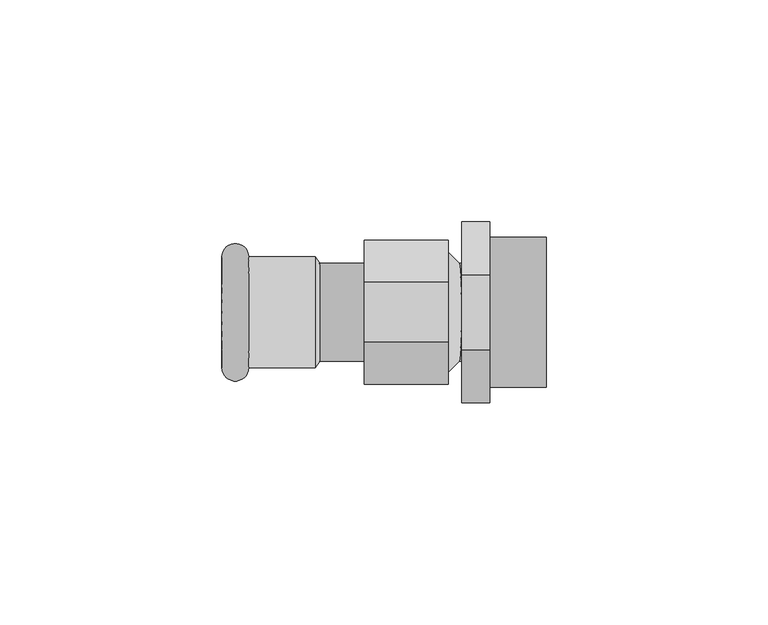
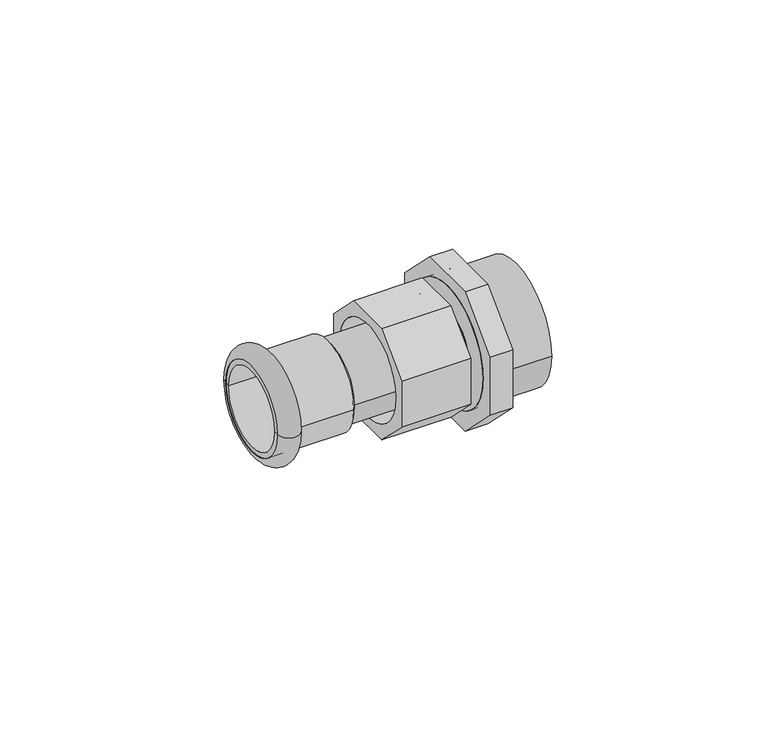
"""IFC4 building model written with IfcOpenShell, lengths in millimetres: pipe fitting geometry."""

from ifc_helpers import new_model, si_unit, point, frame, origin, origin_2d, place, context, project, spatial, polyline, circle_curve, ellipse_curve, trimmed, segment, composite_curve, outline, extrude, source, transform, mapped, element, save
from ifc_brep_helpers import plane_surface, cylinder_surface, revolved_surface, advanced_brep


def pipe_fitting_bc17f14c(model_context):
    return source(origin(), model_context, "Body", "SolidModel", [
        advanced_brep(
        [(-6.3333333, -16.2355862, 6.725), (-6.3333333, -6.725, 16.2355862), (-6.3333333, 6.725, 16.2355862), (-6.3333333, 16.2355862, 6.725), (-6.3333333, 16.2355862, -6.725), (-6.3333333, 6.725, -16.2355862), (-6.3333333, -6.725, -16.2355862), (-6.3333333, -16.2355862, -6.725), (-6.3333333, 13.45, 0.0), (-6.3333333, -13.45, 0.0), (12.6666667, -16.2355862, 6.725), (12.6666667, -16.2355862, -6.725), (12.6666667, -6.725, -16.2355862), (12.6666667, 6.725, -16.2355862), (12.6666667, 16.2355862, -6.725), (12.6666667, 16.2355862, 6.725), (12.6666667, 6.725, 16.2355862), (12.6666667, -6.725, 16.2355862), (12.6666667, 13.4788231, 0.0), (12.6666667, -13.4788231, 0.0), (12.6666667, 13.45, 0.0), (12.6666667, -13.45, 0.0), (12.6666667, 10.4788231, 0.0), (12.6666667, -10.4788231, 0.0), (15.6666667, 10.4788231, 0.0), (15.6666667, -10.4788231, 0.0)],
        [
            (0, 1),
            (1, 2),
            (2, 3),
            (3, 4),
            (4, 5),
            (5, 6),
            (6, 7),
            (7, 0),
            (8, 9, circle_curve(frame((-6.3333333, 0.0, 0.0), z_axis=(1.0, 0.0, 0.0), x_axis=(0.0, -1.0, 0.0)), 13.45)),
            (9, 8, circle_curve(frame((-6.3333333, 0.0, 0.0), z_axis=(1.0, 0.0, 0.0), x_axis=(0.0, -1.0, 0.0)), 13.45)),
            (10, 11),
            (11, 12),
            (12, 13),
            (13, 14),
            (14, 15),
            (15, 16),
            (16, 17),
            (17, 10),
            (18, 19, circle_curve(frame((12.6666667, 0.0, 0.0), z_axis=(-1.0, 0.0, 0.0), x_axis=(0.0, -1.0, 0.0)), 13.4788231)),
            (19, 18, circle_curve(frame((12.6666667, 0.0, 0.0), z_axis=(-1.0, 0.0, 0.0), x_axis=(0.0, 1.0, 0.0)), 13.4788231)),
            (8, 20),
            (20, 21, circle_curve(frame((12.6666667, 0.0, 0.0), z_axis=(1.0, 0.0, 0.0), x_axis=(0.0, -1.0, 0.0)), 13.45)),
            (21, 9),
            (21, 20, circle_curve(frame((12.6666667, 0.0, 0.0), z_axis=(1.0, 0.0, 0.0), x_axis=(0.0, -1.0, 0.0)), 13.45)),
            (0, 10),
            (17, 1),
            (16, 2),
            (15, 3),
            (14, 4),
            (13, 5),
            (12, 6),
            (11, 7),
            (22, 23, circle_curve(frame((12.6666667, 0.0, 0.0), z_axis=(1.0, 0.0, 0.0), x_axis=(0.0, 1.0, 0.0)), 10.4788231)),
            (23, 22, circle_curve(frame((12.6666667, 0.0, 0.0), z_axis=(1.0, 0.0, 0.0), x_axis=(0.0, -1.0, 0.0)), 10.4788231)),
            (24, 25, circle_curve(frame((15.6666667, 0.0, 0.0), z_axis=(-1.0, 0.0, 0.0), x_axis=(0.0, -1.0, 0.0)), 10.4788231)),
            (25, 19),
            (18, 24),
            (23, 25),
            (24, 22),
            (25, 24, circle_curve(frame((15.6666667, 0.0, 0.0), z_axis=(-1.0, 0.0, 0.0), x_axis=(0.0, 1.0, 0.0)), 10.4788231)),
        ],
        [
            plane_surface(frame((-6.3333333, -13.45, 0.0), z_axis=(-1.0, 0.0, 0.0), x_axis=(0.0, 0.0, -1.0))),
            plane_surface(frame((12.6666667, -13.45, 0.0), z_axis=(1.0, 0.0, 0.0), x_axis=(0.0, 0.0, 1.0))),
            revolved_surface(polyline([(12.6666667, -13.45, 0.0), (-6.3333333, -13.45, 0.0)]), (12.6666667, 0.0, 0.0), (1.0, 0.0, 0.0)),
            plane_surface(frame((-6.3333333, -16.2355862, 6.725), z_axis=(0.0, -0.7071067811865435, 0.7071067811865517), x_axis=(1.0, 0.0, 0.0))),
            plane_surface(frame((-6.3333333, -6.725, 16.2355862), z_axis=(0.0, 0.0, 1.0), x_axis=(1.0, 0.0, 0.0))),
            plane_surface(frame((-6.3333333, 6.725, 16.2355862), z_axis=(0.0, 0.7071067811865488, 0.7071067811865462), x_axis=(1.0, 0.0, 0.0))),
            plane_surface(frame((-6.3333333, 16.2355862, 6.725), z_axis=(0.0, 1.0, 0.0), x_axis=(1.0, 0.0, 0.0))),
            plane_surface(frame((-6.3333333, 16.2355862, -6.725), z_axis=(0.0, 0.7071067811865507, -0.7071067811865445), x_axis=(1.0, 0.0, 0.0))),
            plane_surface(frame((-6.3333333, 6.725, -16.2355862), z_axis=(0.0, 0.0, -1.0), x_axis=(1.0, 0.0, 0.0))),
            plane_surface(frame((-6.3333333, -6.725, -16.2355862), z_axis=(0.0, -0.7071067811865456, -0.7071067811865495), x_axis=(1.0, 0.0, 0.0))),
            plane_surface(frame((-6.3333333, -16.2355862, -6.725), z_axis=(0.0, -1.0, 0.0), x_axis=(1.0, 0.0, 0.0))),
            plane_surface(frame((12.6666667, 0.0, 0.0), z_axis=(-1.0, 0.0, 0.0), x_axis=(0.0, 1.0, 0.0))),
            revolved_surface(polyline([(12.6666667, -13.4788231, 0.0), (15.6666667, -10.4788231, 0.0)]), (12.6666667, 0.0, 0.0), (1.0, 0.0, 0.0)),
            revolved_surface(polyline([(15.6666667, -10.4788231, 0.0), (12.6666667, -10.4788231, 0.0)]), (12.6666667, 0.0, 0.0), (1.0, 0.0, 0.0)),
            revolved_surface(polyline([(12.6666667, 13.4788231, 0.0), (15.6666667, 10.4788231, 0.0)]), (12.6666667, 0.0, 0.0), (1.0, 0.0, 0.0)),
            revolved_surface(polyline([(15.6666667, 10.4788231, 0.0), (12.6666667, 10.4788231, 0.0)]), (12.6666667, 0.0, 0.0), (1.0, 0.0, 0.0)),
        ],
        [
            (0, [[1, 2, 3, 4, 5, 6, 7, 8], [9, 10]]),
            (1, [[11, 12, 13, 14, 15, 16, 17, 18], [19, 20]]),
            (2, [[-9, 21, 22, 23]]),
            (2, [[-10, -23, 24, -21]]),
            (3, [[-1, 25, -18, 26]]),
            (4, [[-2, -26, -17, 27]]),
            (5, [[-3, -27, -16, 28]]),
            (6, [[-4, -28, -15, 29]]),
            (7, [[-5, -29, -14, 30]]),
            (8, [[-6, -30, -13, 31]]),
            (9, [[-7, -31, -12, 32]]),
            (10, [[-8, -32, -11, -25]]),
            (11, [[-22, -24], [33, 34]]),
            (12, [[35, 36, -19, 37]]),
            (13, [[-34, 38, -35, 39]]),
            (14, [[-36, 40, -37, -20]]),
            (15, [[-33, -39, -40, -38]]),
        ],
    ),
        extrude(outline(composite_curve([segment(trimmed(circle_curve(origin_2d(), 16.85), [point((-16.85, 0.0))], [point((16.85, 0.0))], False, "CARTESIAN"), True, "CONTINUOUS"), segment(trimmed(circle_curve(origin_2d(), 16.85), [point((16.85, 0.0))], [point((-16.85, 0.0))], False, "CARTESIAN"), True, "CONTINUOUS")], self_intersect=False)), frame((15.6666667, 0.0, 0.0), z_axis=(1.0, 0.0, 0.0), x_axis=(0.0, 1.0, 0.0)), (0.0, 0.0, 1.0), 19.0),
        extrude(outline(polyline([(20.3397493, 8.425), (20.3397493, -8.425), (8.425, -20.3397493), (-8.425, -20.3397493), (-20.3397493, -8.425), (-20.3397493, 8.425), (-8.425, 20.3397493), (8.425, 20.3397493), (20.3397493, 8.425)]), holes=[composite_curve([segment(trimmed(circle_curve(origin_2d(), 16.85), [point((-16.85, 0.0))], [point((16.85, 0.0))], True, "CARTESIAN"), True, "CONTINUOUS"), segment(trimmed(circle_curve(origin_2d(), 16.85), [point((16.85, 0.0))], [point((-16.85, 0.0))], True, "CARTESIAN"), True, "CONTINUOUS")], self_intersect=False)]), frame((15.6666667, 0.0, 0.0), z_axis=(1.0, 0.0, 0.0), x_axis=(0.0, 1.0, 0.0)), (0.0, 0.0, 1.0), 6.3333333),
        advanced_brep(
        [(-38.3333333, 12.5, 0.0), (-38.3333333, -12.5, 0.0), (-32.3320406, -12.5, 0.0), (-32.3320406, 12.5, 0.0)],
        [
            (0, 1, circle_curve(frame((-38.3333333, 0.0, 0.0), z_axis=(-1.0, 0.0, 0.0), x_axis=(0.0, -1.0, 0.0)), 12.5)),
            (1, 2),
            (2, 3, circle_curve(frame((-32.3320406, 0.0, 0.0), z_axis=(1.0, 0.0, 0.0), x_axis=(0.0, -1.0, 0.0)), 12.5)),
            (3, 0),
            (1, 0, circle_curve(frame((-38.3333333, 0.0, 0.0), z_axis=(-1.0, 0.0, 0.0), x_axis=(0.0, -1.0, 0.0)), 12.5)),
            (3, 2, circle_curve(frame((-32.3320406, 0.0, 0.0), z_axis=(1.0, 0.0, 0.0), x_axis=(0.0, -1.0, 0.0)), 12.5)),
            (2, 1, circle_curve(frame((-35.332687, -12.5, 0.0), z_axis=(0.0, 0.0, -1.0), x_axis=(-1.0, 0.0, 0.0)), 3.0006464)),
            (0, 3, circle_curve(frame((-35.332687, 12.5, 0.0), z_axis=(0.0, 0.0, -1.0), x_axis=(-1.0, 0.0, 0.0)), 3.0006464)),
        ],
        [
            revolved_surface(polyline([(-32.3320406, -12.5, 0.0), (-38.3333333, -12.5, 0.0)]), (-17.3333333, 0.0, 0.0), (1.0, 0.0, 0.0)),
            revolved_surface(trimmed(ellipse_curve(frame((-35.332687, -12.5, 0.0), z_axis=(0.0, 0.0, 1.0), x_axis=(-1.0, 0.0, 0.0)), 3.0006464, 3.0006464), [point((-38.3333333, -12.5, 0.0))], [point((-32.3320406, -12.5, 0.0))], True, "CARTESIAN"), (-17.3333333, 0.0, 0.0), (1.0, 0.0, 0.0)),
        ],
        [
            (0, [[1, 2, 3, 4]]),
            (0, [[5, -4, 6, -2]]),
            (1, [[-3, 7, -1, 8]]),
            (1, [[-6, -8, -5, -7]]),
        ],
    ),
        advanced_brep(
        [(-38.3333333, 11.0, 0.0), (-38.3333333, -11.0, 0.0), (-16.3333333, -11.0, 0.0), (-16.3333333, 11.0, 0.0), (-38.3333333, 12.5, 0.0), (-38.3333333, -12.5, 0.0), (-17.3333333, 12.5, 0.0), (-17.3333333, -12.5, 0.0)],
        [
            (0, 1, circle_curve(frame((-38.3333333, 0.0, 0.0), z_axis=(-1.0, 0.0, 0.0), x_axis=(0.0, -1.0, 0.0)), 11.0)),
            (1, 2),
            (2, 3, circle_curve(frame((-16.3333333, 0.0, 0.0), z_axis=(1.0, 0.0, 0.0), x_axis=(0.0, -1.0, 0.0)), 11.0)),
            (3, 0),
            (1, 0, circle_curve(frame((-38.3333333, 0.0, 0.0), z_axis=(-1.0, 0.0, 0.0), x_axis=(0.0, -1.0, 0.0)), 11.0)),
            (3, 2, circle_curve(frame((-16.3333333, 0.0, 0.0), z_axis=(1.0, 0.0, 0.0), x_axis=(0.0, -1.0, 0.0)), 11.0)),
            (4, 5, circle_curve(frame((-38.3333333, 0.0, 0.0), z_axis=(-1.0, 0.0, 0.0), x_axis=(0.0, -1.0, 0.0)), 12.5)),
            (5, 1),
            (0, 4),
            (5, 4, circle_curve(frame((-38.3333333, 0.0, 0.0), z_axis=(-1.0, 0.0, 0.0), x_axis=(0.0, -1.0, 0.0)), 12.5)),
            (6, 7, circle_curve(frame((-17.3333333, 0.0, 0.0), z_axis=(-1.0, 0.0, 0.0), x_axis=(0.0, -1.0, 0.0)), 12.5)),
            (7, 5),
            (4, 6),
            (7, 6, circle_curve(frame((-17.3333333, 0.0, 0.0), z_axis=(-1.0, 0.0, 0.0), x_axis=(0.0, -1.0, 0.0)), 12.5)),
            (2, 7),
            (6, 3),
        ],
        [
            revolved_surface(polyline([(-16.3333333, -11.0, 0.0), (-38.3333333, -11.0, 0.0)]), (-17.3333333, 0.0, 0.0), (1.0, 0.0, 0.0)),
            plane_surface(frame((-38.3333333, 0.0, 0.0), z_axis=(-1.0, 0.0, 0.0), x_axis=(0.0, -1.0, 0.0))),
            cylinder_surface(frame((-17.3333333, 0.0, 0.0), z_axis=(1.0, 0.0, 0.0), x_axis=(0.0, -1.0, 0.0)), 12.5),
            revolved_surface(polyline([(-17.3333333, -12.5, 0.0), (-16.3333333, -11.0, 0.0)]), (-17.3333333, 0.0, 0.0), (1.0, 0.0, 0.0)),
        ],
        [
            (0, [[1, 2, 3, 4]]),
            (0, [[5, -4, 6, -2]]),
            (1, [[7, 8, -1, 9]]),
            (1, [[10, -9, -5, -8]]),
            (2, [[11, 12, -7, 13]]),
            (2, [[14, -13, -10, -12]]),
            (3, [[-3, 15, -11, 16]]),
            (3, [[-6, -16, -14, -15]]),
        ],
    ),
        extrude(outline(composite_curve([segment(trimmed(circle_curve(origin_2d(), 11.0), [point((-11.0, 0.0))], [point((11.0, 0.0))], False, "CARTESIAN"), True, "CONTINUOUS"), segment(trimmed(circle_curve(origin_2d(), 11.0), [point((11.0, 0.0))], [point((-11.0, 0.0))], False, "CARTESIAN"), True, "CONTINUOUS")], self_intersect=False)), frame((-17.3333333, 0.0, 0.0), z_axis=(1.0, 0.0, 0.0), x_axis=(0.0, 1.0, 0.0)), (0.0, 0.0, 1.0), 52.0),
    ])


if __name__ == "__main__":
    model = new_model("IFC4")
    model_context = context("Model", 3, world=origin())
    ifc_project = project(units=[si_unit("LENGTHUNIT", "METRE", prefix="MILLI")], contexts=[model_context])
    site = spatial("IfcSite", under=ifc_project)
    building = spatial("IfcBuilding", under=site)
    placement = place(None, origin())
    pipe_fitting_shape = pipe_fitting_bc17f14c(model_context)
    element("IfcPipeFitting", 1, ObjectType="NLRS_50_PIF_UN_Mapress Therm 3-d koppeling buitendraad_PRO_3208083_geb : DN12-50-R2\" / d15-54-R2\" - OD", at=placement, inside=building, context=model_context, shape_type="MappedRepresentation", body=[
        mapped(pipe_fitting_shape, transform((0.0, 0.0, 0.0), x_axis=(1.0, 0.0, 0.0), y_axis=(0.0, 1.0, 0.0), z_axis=(0.0, 0.0, 1.0))),
    ])
    save(model, "model.ifc")
